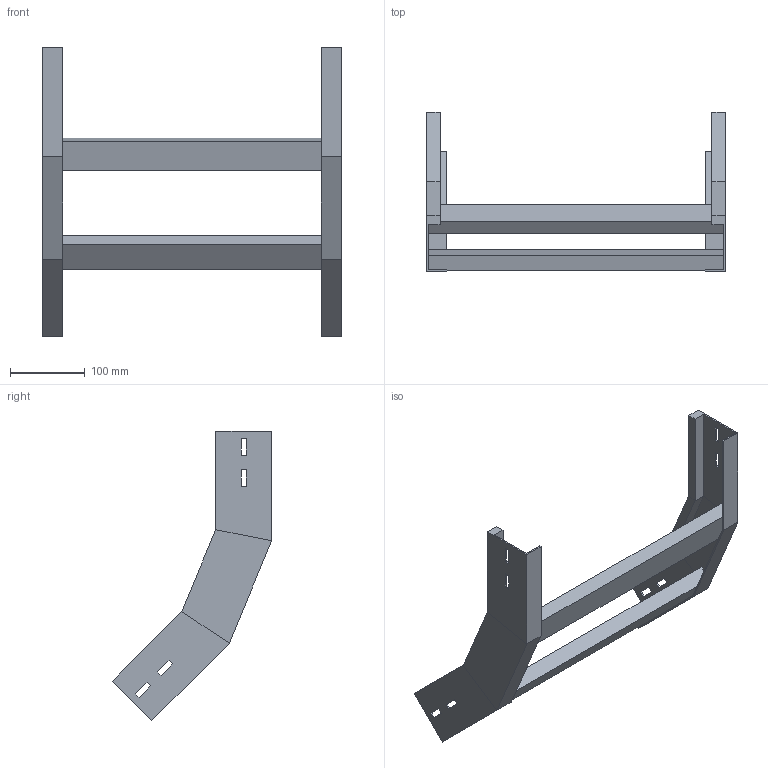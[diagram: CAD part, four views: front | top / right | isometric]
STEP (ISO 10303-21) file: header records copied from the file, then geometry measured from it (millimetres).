
FILE_DESCRIPTION (( 'STEP AP214' ), '1' );
FILE_NAME ('A2X31B3C400XX.step', '2025-03-20T10:08:59', ( '' ), ( '' ), 'SwSTEP 2.0', 'SolidWorks 2023', '' );
FILE_SCHEMA (( 'AUTOMOTIVE_DESIGN' ));
Length unit declared in the file: millimetre
Products named in the file (3): TRAVERSINO_400; LONGH.SALITA_45°_H75_R300; A2X31B3C400XX
Assembly tree (4 placements, depth 2):
  A2X31B3C400XX
    LONGH.SALITA_45°_H75_R300  x2
    TRAVERSINO_400  x2
Bounding box: 400 x 213.56 x 387.55 mm (x, y, z)
Volume: 955315.1 mm3; surface area: 294850.7 mm2
Topology: 4 solids, 4 shells, 96 faces, 232 edges, 144 vertices
Faces by surface type: plane 96
Entity records: 1472 total; most frequent: CARTESIAN_POINT 243, ORIENTED_EDGE 232, DIRECTION 226, EDGE_CURVE 116, LINE 116, VECTOR 116, VERTEX_POINT 72, EDGE_LOOP 56
